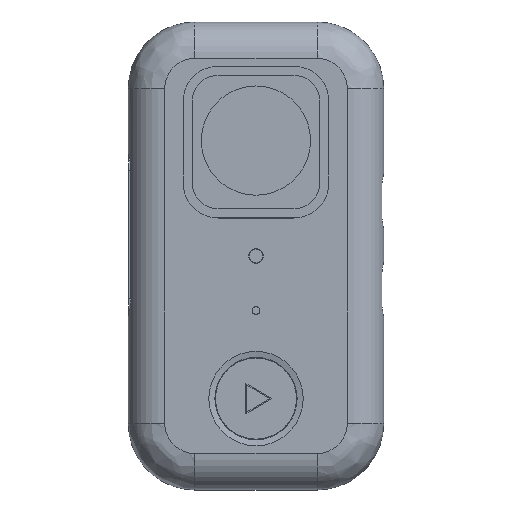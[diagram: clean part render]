
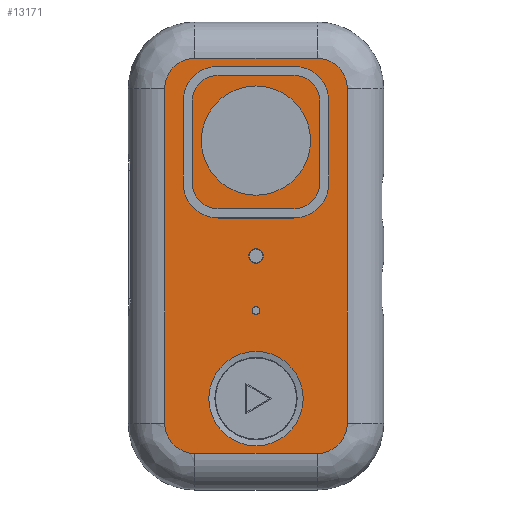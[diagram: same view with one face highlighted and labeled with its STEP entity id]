
A CAD part, top view. The second image highlights one B-rep face of the part: STEP entity #13171.
In plain terms, the highlighted planar face has unit normal (0, 0, 1).
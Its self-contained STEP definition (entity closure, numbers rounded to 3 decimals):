
#451=FACE_BOUND('',#2652,.T.);
#452=FACE_BOUND('',#2653,.T.);
#453=FACE_BOUND('',#2654,.T.);
#454=FACE_BOUND('',#2655,.T.);
#1134=CIRCLE('',#14456,15.55);
#1136=CIRCLE('',#14460,12.);
#1137=CIRCLE('',#14461,12.);
#1138=CIRCLE('',#14462,12.);
#1139=CIRCLE('',#14463,12.);
#1140=CIRCLE('',#14464,18.);
#1141=CIRCLE('',#14465,2.405);
#1142=CIRCLE('',#14466,1.301);
#1849=FACE_OUTER_BOUND('',#2651,.T.);
#2651=EDGE_LOOP('',(#10954,#10955,#10956,#10957,#10958,#10959,#10960,#10961));
#2652=EDGE_LOOP('',(#10962));
#2653=EDGE_LOOP('',(#10963));
#2654=EDGE_LOOP('',(#10964));
#2655=EDGE_LOOP('',(#10965));
#3712=LINE('',#24245,#4849);
#3715=LINE('',#24260,#4852);
#3716=LINE('',#24264,#4853);
#3717=LINE('',#24268,#4854);
#4849=VECTOR('',#17449,10.);
#4852=VECTOR('',#17466,10.);
#4853=VECTOR('',#17469,10.);
#4854=VECTOR('',#17474,10.);
#6088=VERTEX_POINT('',#24242);
#6089=VERTEX_POINT('',#24244);
#6090=VERTEX_POINT('',#24248);
#6092=VERTEX_POINT('',#24256);
#6093=VERTEX_POINT('',#24257);
#6094=VERTEX_POINT('',#24259);
#6095=VERTEX_POINT('',#24261);
#6096=VERTEX_POINT('',#24263);
#6097=VERTEX_POINT('',#24266);
#6098=VERTEX_POINT('',#24269);
#6099=VERTEX_POINT('',#24271);
#6100=VERTEX_POINT('',#24273);
#7782=EDGE_CURVE('',#6088,#6089,#3712,.T.);
#7784=EDGE_CURVE('',#6090,#6090,#1134,.T.);
#7788=EDGE_CURVE('',#6092,#6093,#1136,.T.);
#7789=EDGE_CURVE('',#6094,#6092,#3715,.T.);
#7790=EDGE_CURVE('',#6095,#6094,#1137,.T.);
#7791=EDGE_CURVE('',#6096,#6095,#3716,.T.);
#7792=EDGE_CURVE('',#6089,#6096,#1138,.T.);
#7793=EDGE_CURVE('',#6097,#6088,#1139,.T.);
#7794=EDGE_CURVE('',#6093,#6097,#3717,.T.);
#7795=EDGE_CURVE('',#6098,#6098,#1140,.T.);
#7796=EDGE_CURVE('',#6099,#6099,#1141,.T.);
#7797=EDGE_CURVE('',#6100,#6100,#1142,.T.);
#10954=ORIENTED_EDGE('',*,*,#7788,.F.);
#10955=ORIENTED_EDGE('',*,*,#7789,.F.);
#10956=ORIENTED_EDGE('',*,*,#7790,.F.);
#10957=ORIENTED_EDGE('',*,*,#7791,.F.);
#10958=ORIENTED_EDGE('',*,*,#7792,.F.);
#10959=ORIENTED_EDGE('',*,*,#7782,.F.);
#10960=ORIENTED_EDGE('',*,*,#7793,.F.);
#10961=ORIENTED_EDGE('',*,*,#7794,.F.);
#10962=ORIENTED_EDGE('',*,*,#7795,.T.);
#10963=ORIENTED_EDGE('',*,*,#7796,.T.);
#10964=ORIENTED_EDGE('',*,*,#7797,.T.);
#10965=ORIENTED_EDGE('',*,*,#7784,.F.);
#12559=PLANE('',#14459);
#13171=ADVANCED_FACE('',(#1849,#451,#452,#453,#454),#12559,.T.);
#14456=AXIS2_PLACEMENT_3D('',#24249,#17454,#17455);
#14459=AXIS2_PLACEMENT_3D('',#24255,#17462,#17463);
#14460=AXIS2_PLACEMENT_3D('',#24258,#17464,#17465);
#14461=AXIS2_PLACEMENT_3D('',#24262,#17467,#17468);
#14462=AXIS2_PLACEMENT_3D('',#24265,#17470,#17471);
#14463=AXIS2_PLACEMENT_3D('',#24267,#17472,#17473);
#14464=AXIS2_PLACEMENT_3D('',#24270,#17475,#17476);
#14465=AXIS2_PLACEMENT_3D('',#24272,#17477,#17478);
#14466=AXIS2_PLACEMENT_3D('',#24274,#17479,#17480);
#17449=DIRECTION('',(0.,1.,0.));
#17454=DIRECTION('center_axis',(0.,0.,1.));
#17455=DIRECTION('ref_axis',(1.,0.,0.));
#17462=DIRECTION('center_axis',(0.,0.,1.));
#17463=DIRECTION('ref_axis',(1.,0.,0.));
#17464=DIRECTION('center_axis',(0.,0.,-1.));
#17465=DIRECTION('ref_axis',(0.707,-0.707,0.));
#17466=DIRECTION('',(0.,-1.,0.));
#17467=DIRECTION('center_axis',(0.,0.,-1.));
#17468=DIRECTION('ref_axis',(0.707,0.707,0.));
#17469=DIRECTION('',(1.,0.,0.));
#17470=DIRECTION('center_axis',(0.,0.,-1.));
#17471=DIRECTION('ref_axis',(-0.707,0.707,0.));
#17472=DIRECTION('center_axis',(0.,0.,-1.));
#17473=DIRECTION('ref_axis',(-0.707,-0.707,0.));
#17474=DIRECTION('',(-1.,0.,0.));
#17475=DIRECTION('center_axis',(0.,0.,-1.));
#17476=DIRECTION('ref_axis',(-1.,0.,0.));
#17477=DIRECTION('center_axis',(0.,0.,-1.));
#17478=DIRECTION('ref_axis',(1.,0.,0.));
#17479=DIRECTION('center_axis',(0.,0.,-1.));
#17480=DIRECTION('ref_axis',(1.,0.,0.));
#24242=CARTESIAN_POINT('',(-32.,-55.,0.));
#24244=CARTESIAN_POINT('',(-32.,55.,0.));
#24245=CARTESIAN_POINT('',(-32.,37.5,0.));
#24248=CARTESIAN_POINT('',(-15.55,-47.,0.));
#24249=CARTESIAN_POINT('Origin',(0.,-47.,0.));
#24255=CARTESIAN_POINT('Origin',(0.,0.,0.));
#24256=CARTESIAN_POINT('',(32.,-55.,0.));
#24257=CARTESIAN_POINT('',(20.,-67.,0.));
#24258=CARTESIAN_POINT('Origin',(20.,-55.,0.));
#24259=CARTESIAN_POINT('',(32.,55.,0.));
#24260=CARTESIAN_POINT('',(32.,-37.5,0.));
#24261=CARTESIAN_POINT('',(20.,67.,0.));
#24262=CARTESIAN_POINT('Origin',(20.,55.,0.));
#24263=CARTESIAN_POINT('',(-20.,67.,0.));
#24264=CARTESIAN_POINT('',(20.,67.,0.));
#24265=CARTESIAN_POINT('Origin',(-20.,55.,0.));
#24266=CARTESIAN_POINT('',(-20.,-67.,0.));
#24267=CARTESIAN_POINT('Origin',(-20.,-55.,0.));
#24268=CARTESIAN_POINT('',(-20.,-67.,0.));
#24269=CARTESIAN_POINT('',(17.986,38.,0.));
#24270=CARTESIAN_POINT('Origin',(-0.014,38.,0.));
#24271=CARTESIAN_POINT('',(-2.405,0.,0.));
#24272=CARTESIAN_POINT('Origin',(0.,0.,0.));
#24273=CARTESIAN_POINT('',(-1.301,-18.001,0.));
#24274=CARTESIAN_POINT('Origin',(0.,-18.001,
0.));
